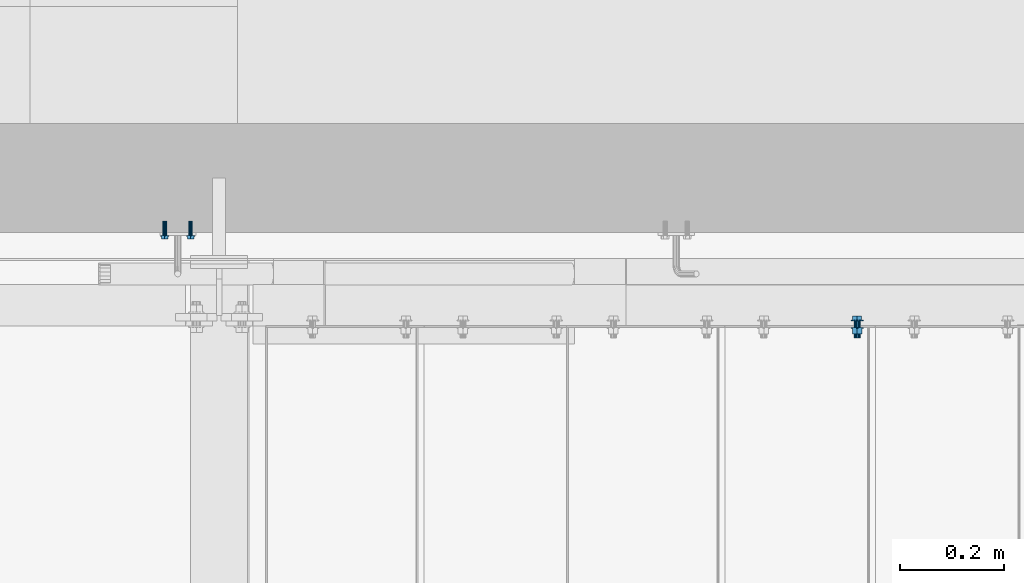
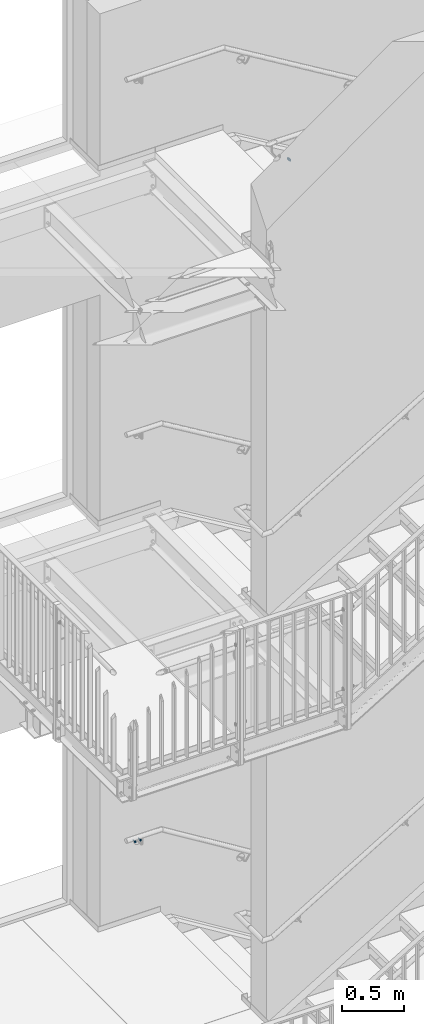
# One storey, part 249 of 410: 2 mechanical fasteners.
"""IFC2X3 building model written with IfcOpenShell, lengths in millimetres."""

from ifc_helpers import new_model, entity, si_unit, converted_unit, origin_with_axes, place, context, project, spatial, faceted_brep, element, save


model = new_model("IFC2X3")

# Units and contexts
model_context = context("Model", 3, precision=1e-09, world=origin_with_axes())
ifc_project = project(units=[si_unit("LENGTHUNIT", "METRE", prefix="MILLI"), si_unit("AREAUNIT", "SQUARE_METRE"), si_unit("VOLUMEUNIT", "CUBIC_METRE"), converted_unit("PLANEANGLEUNIT", "DEGREE", entity("IfcPlaneAngleMeasure", 0.01745329), si_unit("PLANEANGLEUNIT", "RADIAN"), dimensions=[0, 0, 0, 0, 0, 0, 0])], contexts=[model_context])

# Site, building, storey
site_placement = place(None, origin_with_axes())
site = spatial("IfcSite", under=ifc_project, at=site_placement, Name="mKR Teilneubau & Sanierung BA1 - Ostfildern", CompositionType="ELEMENT")
building_placement = place(site_placement, origin_with_axes())
building = spatial("IfcBuilding", under=site, at=building_placement, Name="Struktur 1", CompositionType="ELEMENT")
storey_placement = place(building_placement, origin_with_axes())
storey = spatial("IfcBuildingStorey", under=building, at=storey_placement, Name="Default Storey", CompositionType="ELEMENT", Elevation=0.0)

# Mechanical fasteners
mechanical_fastener_1_placement = place(None, origin_with_axes())
element("IfcMechanicalFastener", 1, at=mechanical_fastener_1_placement, inside=storey, ObjectType="Bolt", NominalDiameter=12.0, NominalLength=35.0, context=model_context, shape_type="Brep", body=[
    faceted_brep([(-568.0, 18451.499999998, 7095.0), (-568.0, 18448.999999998, 7095.0), (-568.230576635, 18448.999999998, 7092.658916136), (-568.230576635, 18451.499999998, 7092.658916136), (-568.91344561, 18448.999999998, 7090.407798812), (-568.91344561, 18451.499999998, 7090.407798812), (-570.022364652, 18448.999999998, 7088.333157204), (-570.022364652, 18451.499999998, 7088.333157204), (-571.514718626, 18448.999999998, 7086.514718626), (-571.514718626, 18451.499999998, 7086.514718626), (-573.333157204, 18448.999999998, 7085.022364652), (-573.333157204, 18451.499999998, 7085.022364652), (-575.407798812, 18448.999999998, 7083.91344561), (-575.407798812, 18451.499999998, 7083.91344561), (-577.658916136, 18448.999999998, 7083.230576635), (-577.658916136, 18451.499999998, 7083.230576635), (-580.0, 18448.999999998, 7083.0), (-580.0, 18451.499999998, 7083.0), (-582.341083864, 18448.999999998, 7083.230576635), (-582.341083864, 18451.499999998, 7083.230576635), (-584.592201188, 18448.999999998, 7083.91344561), (-584.592201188, 18451.499999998, 7083.91344561), (-586.666842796, 18448.999999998, 7085.022364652), (-586.666842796, 18451.499999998, 7085.022364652), (-588.485281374, 18448.999999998, 7086.514718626), (-588.485281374, 18451.499999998, 7086.514718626), (-589.977635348, 18448.999999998, 7088.333157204), (-589.977635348, 18451.499999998, 7088.333157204), (-591.08655439, 18448.999999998, 7090.407798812), (-591.08655439, 18451.499999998, 7090.407798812), (-591.769423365, 18448.999999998, 7092.658916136), (-591.769423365, 18451.499999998, 7092.658916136), (-592.0, 18448.999999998, 7095.0), (-592.0, 18451.499999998, 7095.0), (-591.769423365, 18448.999999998, 7097.341083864), (-591.769423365, 18451.499999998, 7097.341083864), (-591.08655439, 18448.999999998, 7099.592201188), (-591.08655439, 18451.499999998, 7099.592201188), (-589.977635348, 18448.999999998, 7101.666842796), (-589.977635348, 18451.499999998, 7101.666842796), (-588.485281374, 18448.999999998, 7103.485281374), (-588.485281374, 18451.499999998, 7103.485281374), (-586.666842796, 18448.999999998, 7104.977635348), (-586.666842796, 18451.499999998, 7104.977635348), (-584.592201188, 18448.999999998, 7106.08655439), (-584.592201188, 18451.499999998, 7106.08655439), (-582.341083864, 18448.999999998, 7106.769423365), (-582.341083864, 18451.499999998, 7106.769423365), (-580.0, 18448.999999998, 7107.0), (-580.0, 18451.499999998, 7107.0), (-577.658916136, 18448.999999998, 7106.769423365), (-577.658916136, 18451.499999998, 7106.769423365), (-575.407798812, 18448.999999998, 7106.08655439), (-575.407798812, 18451.499999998, 7106.08655439), (-573.333157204, 18448.999999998, 7104.977635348), (-573.333157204, 18451.499999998, 7104.977635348), (-571.514718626, 18448.999999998, 7103.485281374), (-571.514718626, 18451.499999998, 7103.485281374), (-570.022364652, 18448.999999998, 7101.666842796), (-570.022364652, 18451.499999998, 7101.666842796), (-568.91344561, 18448.999999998, 7099.592201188), (-568.91344561, 18451.499999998, 7099.592201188), (-568.230576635, 18448.999999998, 7097.341083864), (-568.230576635, 18451.499999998, 7097.341083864)], [[[0, 1, 2, 3]], [[3, 2, 4, 5]], [[5, 4, 6, 7]], [[7, 6, 8, 9]], [[9, 8, 10, 11]], [[11, 10, 12, 13]], [[13, 12, 14, 15]], [[15, 14, 16, 17]], [[17, 16, 18, 19]], [[19, 18, 20, 21]], [[21, 20, 22, 23]], [[23, 22, 24, 25]], [[25, 24, 26, 27]], [[27, 26, 28, 29]], [[29, 28, 30, 31]], [[31, 30, 32, 33]], [[33, 32, 34, 35]], [[35, 34, 36, 37]], [[37, 36, 38, 39]], [[39, 38, 40, 41]], [[41, 40, 42, 43]], [[43, 42, 44, 45]], [[45, 44, 46, 47]], [[47, 46, 48, 49]], [[49, 48, 50, 51]], [[51, 50, 52, 53]], [[53, 52, 54, 55]], [[55, 54, 56, 57]], [[57, 56, 58, 59]], [[59, 58, 60, 61]], [[61, 60, 62, 63]], [[63, 62, 1, 0]], [[0, 3, 5, 7, 9, 11, 13, 15, 17, 19, 21, 23, 25, 27, 29, 31, 33, 35, 37, 39, 41, 43, 45, 47, 49, 51, 53, 55, 57, 59, 61, 63]], [[1, 62, 60, 58, 56, 54, 52, 50, 48, 46, 44, 42, 40, 38, 36, 34, 32, 30, 28, 26, 24, 22, 20, 18, 16, 14, 12, 10, 8, 6, 4, 2]]]),
    faceted_brep([(-588.673244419, 18451.499999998, 7089.9925), (-588.673244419, 18458.999999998, 7089.9925), (-580.0, 18458.999999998, 7084.985), (-580.0, 18451.499999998, 7084.985), (-571.326755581, 18458.999999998, 7089.9925), (-571.326755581, 18451.499999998, 7089.9925), (-571.326755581, 18458.999999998, 7100.0075), (-571.326755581, 18451.499999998, 7100.0075), (-580.0, 18458.999999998, 7105.015), (-580.0, 18451.499999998, 7105.015), (-588.673244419, 18458.999999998, 7100.0075), (-588.673244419, 18451.499999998, 7100.0075)], [[[0, 1, 2, 3]], [[3, 2, 4, 5]], [[5, 4, 6, 7]], [[7, 6, 8, 9]], [[9, 8, 10, 11]], [[11, 10, 1, 0]], [[4, 2, 1, 10, 8, 6]], [[0, 3, 5, 7, 9, 11]]]),
    faceted_brep([(-574.0, 18448.999999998, 7095.0), (-574.0, 18436.999999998, 7095.0), (-574.456722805, 18436.999999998, 7092.703899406), (-574.456722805, 18448.999999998, 7092.703899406), (-575.757359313, 18436.999999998, 7090.757359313), (-575.757359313, 18448.999999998, 7090.757359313), (-577.703899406, 18436.999999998, 7089.456722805), (-577.703899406, 18448.999999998, 7089.456722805), (-580.0, 18436.999999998, 7089.0), (-580.0, 18448.999999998, 7089.0), (-582.296100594, 18436.999999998, 7089.456722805), (-582.296100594, 18448.999999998, 7089.456722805), (-584.242640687, 18436.999999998, 7090.757359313), (-584.242640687, 18448.999999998, 7090.757359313), (-585.543277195, 18436.999999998, 7092.703899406), (-585.543277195, 18448.999999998, 7092.703899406), (-586.0, 18436.999999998, 7095.0), (-586.0, 18448.999999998, 7095.0), (-585.543277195, 18436.999999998, 7097.296100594), (-585.543277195, 18448.999999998, 7097.296100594), (-584.242640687, 18436.999999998, 7099.242640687), (-584.242640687, 18448.999999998, 7099.242640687), (-582.296100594, 18436.999999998, 7100.543277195), (-582.296100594, 18448.999999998, 7100.543277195), (-580.0, 18436.999999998, 7101.0), (-580.0, 18448.999999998, 7101.0), (-577.703899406, 18436.999999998, 7100.543277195), (-577.703899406, 18448.999999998, 7100.543277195), (-575.757359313, 18436.999999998, 7099.242640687), (-575.757359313, 18448.999999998, 7099.242640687), (-574.456722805, 18436.999999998, 7097.296100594), (-574.456722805, 18448.999999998, 7097.296100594)], [[[0, 1, 2, 3]], [[3, 2, 4, 5]], [[5, 4, 6, 7]], [[7, 6, 8, 9]], [[9, 8, 10, 11]], [[11, 10, 12, 13]], [[13, 12, 14, 15]], [[15, 14, 16, 17]], [[17, 16, 18, 19]], [[19, 18, 20, 21]], [[21, 20, 22, 23]], [[23, 22, 24, 25]], [[25, 24, 26, 27]], [[27, 26, 28, 29]], [[29, 28, 30, 31]], [[31, 30, 1, 0]], [[0, 3, 5, 7, 9, 11, 13, 15, 17, 19, 21, 23, 25, 27, 29, 31]], [[1, 30, 28, 26, 24, 22, 20, 18, 16, 14, 12, 10, 8, 6, 4, 2]]]),
    faceted_brep([(-568.0, 18436.999999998, 7095.0), (-568.0, 18434.499999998, 7095.0), (-568.230576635, 18434.499999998, 7092.658916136), (-568.230576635, 18436.999999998, 7092.658916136), (-568.91344561, 18434.499999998, 7090.407798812), (-568.91344561, 18436.999999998, 7090.407798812), (-570.022364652, 18434.499999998, 7088.333157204), (-570.022364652, 18436.999999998, 7088.333157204), (-571.514718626, 18434.499999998, 7086.514718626), (-571.514718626, 18436.999999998, 7086.514718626), (-573.333157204, 18434.499999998, 7085.022364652), (-573.333157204, 18436.999999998, 7085.022364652), (-575.407798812, 18434.499999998, 7083.91344561), (-575.407798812, 18436.999999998, 7083.91344561), (-577.658916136, 18434.499999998, 7083.230576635), (-577.658916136, 18436.999999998, 7083.230576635), (-580.0, 18434.499999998, 7083.0), (-580.0, 18436.999999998, 7083.0), (-582.341083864, 18434.499999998, 7083.230576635), (-582.341083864, 18436.999999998, 7083.230576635), (-584.592201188, 18434.499999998, 7083.91344561), (-584.592201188, 18436.999999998, 7083.91344561), (-586.666842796, 18434.499999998, 7085.022364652), (-586.666842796, 18436.999999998, 7085.022364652), (-588.485281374, 18434.499999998, 7086.514718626), (-588.485281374, 18436.999999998, 7086.514718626), (-589.977635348, 18434.499999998, 7088.333157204), (-589.977635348, 18436.999999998, 7088.333157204), (-591.08655439, 18434.499999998, 7090.407798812), (-591.08655439, 18436.999999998, 7090.407798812), (-591.769423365, 18434.499999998, 7092.658916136), (-591.769423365, 18436.999999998, 7092.658916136), (-592.0, 18434.499999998, 7095.0), (-592.0, 18436.999999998, 7095.0), (-591.769423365, 18434.499999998, 7097.341083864), (-591.769423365, 18436.999999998, 7097.341083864), (-591.08655439, 18434.499999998, 7099.592201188), (-591.08655439, 18436.999999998, 7099.592201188), (-589.977635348, 18434.499999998, 7101.666842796), (-589.977635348, 18436.999999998, 7101.666842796), (-588.485281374, 18434.499999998, 7103.485281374), (-588.485281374, 18436.999999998, 7103.485281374), (-586.666842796, 18434.499999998, 7104.977635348), (-586.666842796, 18436.999999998, 7104.977635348), (-584.592201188, 18434.499999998, 7106.08655439), (-584.592201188, 18436.999999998, 7106.08655439), (-582.341083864, 18434.499999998, 7106.769423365), (-582.341083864, 18436.999999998, 7106.769423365), (-580.0, 18434.499999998, 7107.0), (-580.0, 18436.999999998, 7107.0), (-577.658916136, 18434.499999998, 7106.769423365), (-577.658916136, 18436.999999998, 7106.769423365), (-575.407798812, 18434.499999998, 7106.08655439), (-575.407798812, 18436.999999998, 7106.08655439), (-573.333157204, 18434.499999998, 7104.977635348), (-573.333157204, 18436.999999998, 7104.977635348), (-571.514718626, 18434.499999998, 7103.485281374), (-571.514718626, 18436.999999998, 7103.485281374), (-570.022364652, 18434.499999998, 7101.666842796), (-570.022364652, 18436.999999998, 7101.666842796), (-568.91344561, 18434.499999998, 7099.592201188), (-568.91344561, 18436.999999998, 7099.592201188), (-568.230576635, 18434.499999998, 7097.341083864), (-568.230576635, 18436.999999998, 7097.341083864)], [[[0, 1, 2, 3]], [[3, 2, 4, 5]], [[5, 4, 6, 7]], [[7, 6, 8, 9]], [[9, 8, 10, 11]], [[11, 10, 12, 13]], [[13, 12, 14, 15]], [[15, 14, 16, 17]], [[17, 16, 18, 19]], [[19, 18, 20, 21]], [[21, 20, 22, 23]], [[23, 22, 24, 25]], [[25, 24, 26, 27]], [[27, 26, 28, 29]], [[29, 28, 30, 31]], [[31, 30, 32, 33]], [[33, 32, 34, 35]], [[35, 34, 36, 37]], [[37, 36, 38, 39]], [[39, 38, 40, 41]], [[41, 40, 42, 43]], [[43, 42, 44, 45]], [[45, 44, 46, 47]], [[47, 46, 48, 49]], [[49, 48, 50, 51]], [[51, 50, 52, 53]], [[53, 52, 54, 55]], [[55, 54, 56, 57]], [[57, 56, 58, 59]], [[59, 58, 60, 61]], [[61, 60, 62, 63]], [[63, 62, 1, 0]], [[0, 3, 5, 7, 9, 11, 13, 15, 17, 19, 21, 23, 25, 27, 29, 31, 33, 35, 37, 39, 41, 43, 45, 47, 49, 51, 53, 55, 57, 59, 61, 63]], [[1, 62, 60, 58, 56, 54, 52, 50, 48, 46, 44, 42, 40, 38, 36, 34, 32, 30, 28, 26, 24, 22, 20, 18, 16, 14, 12, 10, 8, 6, 4, 2]]]),
    faceted_brep([(-589.13656801, 18424.499999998, 7089.725), (-589.13656801, 18434.499999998, 7089.725), (-580.0, 18434.499999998, 7084.45), (-580.0, 18424.499999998, 7084.45), (-570.86343199, 18434.499999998, 7089.725), (-570.86343199, 18424.499999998, 7089.725), (-570.86343199, 18434.499999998, 7100.275), (-570.86343199, 18424.499999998, 7100.275), (-580.0, 18434.499999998, 7105.55), (-580.0, 18424.499999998, 7105.55), (-589.13656801, 18434.499999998, 7100.275), (-589.13656801, 18424.499999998, 7100.275)], [[[0, 1, 2, 3]], [[3, 2, 4, 5]], [[5, 4, 6, 7]], [[7, 6, 8, 9]], [[9, 8, 10, 11]], [[11, 10, 1, 0]], [[4, 2, 1, 10, 8, 6]], [[0, 3, 5, 7, 9, 11]]]),
    faceted_brep([(-574.0, 18424.499999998, 7095.0), (-574.0, 18416.499999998, 7095.0), (-574.456722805, 18416.499999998, 7092.703899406), (-574.456722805, 18424.499999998, 7092.703899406), (-575.757359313, 18416.499999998, 7090.757359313), (-575.757359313, 18424.499999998, 7090.757359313), (-577.703899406, 18416.499999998, 7089.456722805), (-577.703899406, 18424.499999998, 7089.456722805), (-580.0, 18416.499999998, 7089.0), (-580.0, 18424.499999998, 7089.0), (-582.296100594, 18416.499999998, 7089.456722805), (-582.296100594, 18424.499999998, 7089.456722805), (-584.242640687, 18416.499999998, 7090.757359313), (-584.242640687, 18424.499999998, 7090.757359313), (-585.543277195, 18416.499999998, 7092.703899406), (-585.543277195, 18424.499999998, 7092.703899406), (-586.0, 18416.499999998, 7095.0), (-586.0, 18424.499999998, 7095.0), (-585.543277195, 18416.499999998, 7097.296100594), (-585.543277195, 18424.499999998, 7097.296100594), (-584.242640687, 18416.499999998, 7099.242640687), (-584.242640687, 18424.499999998, 7099.242640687), (-582.296100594, 18416.499999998, 7100.543277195), (-582.296100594, 18424.499999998, 7100.543277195), (-580.0, 18416.499999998, 7101.0), (-580.0, 18424.499999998, 7101.0), (-577.703899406, 18416.499999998, 7100.543277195), (-577.703899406, 18424.499999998, 7100.543277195), (-575.757359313, 18416.499999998, 7099.242640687), (-575.757359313, 18424.499999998, 7099.242640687), (-574.456722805, 18416.499999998, 7097.296100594), (-574.456722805, 18424.499999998, 7097.296100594)], [[[0, 1, 2, 3]], [[3, 2, 4, 5]], [[5, 4, 6, 7]], [[7, 6, 8, 9]], [[9, 8, 10, 11]], [[11, 10, 12, 13]], [[13, 12, 14, 15]], [[15, 14, 16, 17]], [[17, 16, 18, 19]], [[19, 18, 20, 21]], [[21, 20, 22, 23]], [[23, 22, 24, 25]], [[25, 24, 26, 27]], [[27, 26, 28, 29]], [[29, 28, 30, 31]], [[31, 30, 1, 0]], [[0, 3, 5, 7, 9, 11, 13, 15, 17, 19, 21, 23, 25, 27, 29, 31]], [[1, 30, 28, 26, 24, 22, 20, 18, 16, 14, 12, 10, 8, 6, 4, 2]]]),
])
mechanical_fastener_2_placement = place(None, origin_with_axes())
element("IfcMechanicalFastener", 2, at=mechanical_fastener_2_placement, inside=storey, ObjectType="-", NominalDiameter=8.0, NominalLength=30.0, context=model_context, shape_type="Brep", body=[
    faceted_brep([(-1873.000783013, 18612.400061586, 732.599463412), (-1873.000783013, 18614.000061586, 732.599463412), (-1872.847065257, 18614.000061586, 731.038740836), (-1872.847065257, 18612.400061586, 731.038740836), (-1872.391819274, 18614.000061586, 729.537995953), (-1872.391819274, 18612.400061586, 729.537995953), (-1871.652539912, 18614.000061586, 728.154901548), (-1871.652539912, 18612.400061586, 728.154901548), (-1870.657637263, 18614.000061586, 726.942609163), (-1870.657637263, 18612.400061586, 726.942609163), (-1869.445344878, 18614.000061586, 725.947706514), (-1869.445344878, 18612.400061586, 725.947706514), (-1868.062250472, 18614.000061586, 725.208427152), (-1868.062250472, 18612.400061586, 725.208427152), (-1866.56150559, 18614.000061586, 724.753181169), (-1866.56150559, 18612.400061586, 724.753181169), (-1865.000783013, 18614.000061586, 724.599463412), (-1865.000783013, 18612.400061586, 724.599463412), (-1863.440060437, 18614.000061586, 724.753181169), (-1863.440060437, 18612.400061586, 724.753181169), (-1861.939315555, 18614.000061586, 725.208427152), (-1861.939315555, 18612.400061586, 725.208427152), (-1860.556221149, 18614.000061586, 725.947706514), (-1860.556221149, 18612.400061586, 725.947706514), (-1859.343928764, 18614.000061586, 726.942609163), (-1859.343928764, 18612.400061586, 726.942609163), (-1858.349026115, 18614.000061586, 728.154901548), (-1858.349026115, 18612.400061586, 728.154901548), (-1857.609746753, 18614.000061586, 729.537995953), (-1857.609746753, 18612.400061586, 729.537995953), (-1857.15450077, 18614.000061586, 731.038740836), (-1857.15450077, 18612.400061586, 731.038740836), (-1857.000783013, 18614.000061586, 732.599463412), (-1857.000783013, 18612.400061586, 732.599463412), (-1857.15450077, 18614.000061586, 734.160185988), (-1857.15450077, 18612.400061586, 734.160185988), (-1857.609746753, 18614.000061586, 735.660930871), (-1857.609746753, 18612.400061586, 735.660930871), (-1858.349026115, 18614.000061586, 737.044025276), (-1858.349026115, 18612.400061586, 737.044025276), (-1859.343928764, 18614.000061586, 738.256317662), (-1859.343928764, 18612.400061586, 738.256317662), (-1860.556221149, 18614.000061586, 739.251220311), (-1860.556221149, 18612.400061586, 739.251220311), (-1861.939315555, 18614.000061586, 739.990499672), (-1861.939315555, 18612.400061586, 739.990499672), (-1863.440060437, 18614.000061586, 740.445745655), (-1863.440060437, 18612.400061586, 740.445745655), (-1865.000783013, 18614.000061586, 740.599463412), (-1865.000783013, 18612.400061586, 740.599463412), (-1866.56150559, 18614.000061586, 740.445745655), (-1866.56150559, 18612.400061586, 740.445745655), (-1868.062250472, 18614.000061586, 739.990499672), (-1868.062250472, 18612.400061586, 739.990499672), (-1869.445344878, 18614.000061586, 739.251220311), (-1869.445344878, 18612.400061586, 739.251220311), (-1870.657637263, 18614.000061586, 738.256317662), (-1870.657637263, 18612.400061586, 738.256317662), (-1871.652539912, 18614.000061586, 737.044025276), (-1871.652539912, 18612.400061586, 737.044025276), (-1872.391819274, 18614.000061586, 735.660930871), (-1872.391819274, 18612.400061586, 735.660930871), (-1872.847065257, 18614.000061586, 734.160185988), (-1872.847065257, 18612.400061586, 734.160185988)], [[[0, 1, 2, 3]], [[3, 2, 4, 5]], [[5, 4, 6, 7]], [[7, 6, 8, 9]], [[9, 8, 10, 11]], [[11, 10, 12, 13]], [[13, 12, 14, 15]], [[15, 14, 16, 17]], [[17, 16, 18, 19]], [[19, 18, 20, 21]], [[21, 20, 22, 23]], [[23, 22, 24, 25]], [[25, 24, 26, 27]], [[27, 26, 28, 29]], [[29, 28, 30, 31]], [[31, 30, 32, 33]], [[33, 32, 34, 35]], [[35, 34, 36, 37]], [[37, 36, 38, 39]], [[39, 38, 40, 41]], [[41, 40, 42, 43]], [[43, 42, 44, 45]], [[45, 44, 46, 47]], [[47, 46, 48, 49]], [[49, 48, 50, 51]], [[51, 50, 52, 53]], [[53, 52, 54, 55]], [[55, 54, 56, 57]], [[57, 56, 58, 59]], [[59, 58, 60, 61]], [[61, 60, 62, 63]], [[63, 62, 1, 0]], [[0, 3, 5, 7, 9, 11, 13, 15, 17, 19, 21, 23, 25, 27, 29, 31, 33, 35, 37, 39, 41, 43, 45, 47, 49, 51, 53, 55, 57, 59, 61, 63]], [[1, 62, 60, 58, 56, 54, 52, 50, 48, 46, 44, 42, 40, 38, 36, 34, 32, 30, 28, 26, 24, 22, 20, 18, 16, 14, 12, 10, 8, 6, 4, 2]]]),
    faceted_brep([(-1923.000783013, 18612.400061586, 732.599463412), (-1923.000783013, 18614.000061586, 732.599463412), (-1922.847065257, 18614.000061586, 731.038740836), (-1922.847065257, 18612.400061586, 731.038740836), (-1922.391819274, 18614.000061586, 729.537995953), (-1922.391819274, 18612.400061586, 729.537995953), (-1921.652539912, 18614.000061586, 728.154901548), (-1921.652539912, 18612.400061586, 728.154901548), (-1920.657637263, 18614.000061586, 726.942609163), (-1920.657637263, 18612.400061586, 726.942609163), (-1919.445344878, 18614.000061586, 725.947706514), (-1919.445344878, 18612.400061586, 725.947706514), (-1918.062250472, 18614.000061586, 725.208427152), (-1918.062250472, 18612.400061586, 725.208427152), (-1916.56150559, 18614.000061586, 724.753181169), (-1916.56150559, 18612.400061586, 724.753181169), (-1915.000783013, 18614.000061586, 724.599463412), (-1915.000783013, 18612.400061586, 724.599463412), (-1913.440060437, 18614.000061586, 724.753181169), (-1913.440060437, 18612.400061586, 724.753181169), (-1911.939315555, 18614.000061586, 725.208427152), (-1911.939315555, 18612.400061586, 725.208427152), (-1910.556221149, 18614.000061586, 725.947706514), (-1910.556221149, 18612.400061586, 725.947706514), (-1909.343928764, 18614.000061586, 726.942609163), (-1909.343928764, 18612.400061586, 726.942609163), (-1908.349026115, 18614.000061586, 728.154901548), (-1908.349026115, 18612.400061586, 728.154901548), (-1907.609746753, 18614.000061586, 729.537995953), (-1907.609746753, 18612.400061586, 729.537995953), (-1907.15450077, 18614.000061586, 731.038740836), (-1907.15450077, 18612.400061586, 731.038740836), (-1907.000783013, 18614.000061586, 732.599463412), (-1907.000783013, 18612.400061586, 732.599463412), (-1907.15450077, 18614.000061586, 734.160185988), (-1907.15450077, 18612.400061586, 734.160185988), (-1907.609746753, 18614.000061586, 735.660930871), (-1907.609746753, 18612.400061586, 735.660930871), (-1908.349026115, 18614.000061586, 737.044025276), (-1908.349026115, 18612.400061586, 737.044025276), (-1909.343928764, 18614.000061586, 738.256317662), (-1909.343928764, 18612.400061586, 738.256317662), (-1910.556221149, 18614.000061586, 739.251220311), (-1910.556221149, 18612.400061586, 739.251220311), (-1911.939315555, 18614.000061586, 739.990499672), (-1911.939315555, 18612.400061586, 739.990499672), (-1913.440060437, 18614.000061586, 740.445745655), (-1913.440060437, 18612.400061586, 740.445745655), (-1915.000783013, 18614.000061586, 740.599463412), (-1915.000783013, 18612.400061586, 740.599463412), (-1916.56150559, 18614.000061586, 740.445745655), (-1916.56150559, 18612.400061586, 740.445745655), (-1918.062250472, 18614.000061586, 739.990499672), (-1918.062250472, 18612.400061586, 739.990499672), (-1919.445344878, 18614.000061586, 739.251220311), (-1919.445344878, 18612.400061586, 739.251220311), (-1920.657637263, 18614.000061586, 738.256317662), (-1920.657637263, 18612.400061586, 738.256317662), (-1921.652539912, 18614.000061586, 737.044025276), (-1921.652539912, 18612.400061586, 737.044025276), (-1922.391819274, 18614.000061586, 735.660930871), (-1922.391819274, 18612.400061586, 735.660930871), (-1922.847065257, 18614.000061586, 734.160185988), (-1922.847065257, 18612.400061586, 734.160185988)], [[[0, 1, 2, 3]], [[3, 2, 4, 5]], [[5, 4, 6, 7]], [[7, 6, 8, 9]], [[9, 8, 10, 11]], [[11, 10, 12, 13]], [[13, 12, 14, 15]], [[15, 14, 16, 17]], [[17, 16, 18, 19]], [[19, 18, 20, 21]], [[21, 20, 22, 23]], [[23, 22, 24, 25]], [[25, 24, 26, 27]], [[27, 26, 28, 29]], [[29, 28, 30, 31]], [[31, 30, 32, 33]], [[33, 32, 34, 35]], [[35, 34, 36, 37]], [[37, 36, 38, 39]], [[39, 38, 40, 41]], [[41, 40, 42, 43]], [[43, 42, 44, 45]], [[45, 44, 46, 47]], [[47, 46, 48, 49]], [[49, 48, 50, 51]], [[51, 50, 52, 53]], [[53, 52, 54, 55]], [[55, 54, 56, 57]], [[57, 56, 58, 59]], [[59, 58, 60, 61]], [[61, 60, 62, 63]], [[63, 62, 1, 0]], [[0, 3, 5, 7, 9, 11, 13, 15, 17, 19, 21, 23, 25, 27, 29, 31, 33, 35, 37, 39, 41, 43, 45, 47, 49, 51, 53, 55, 57, 59, 61, 63]], [[1, 62, 60, 58, 56, 54, 52, 50, 48, 46, 44, 42, 40, 38, 36, 34, 32, 30, 28, 26, 24, 22, 20, 18, 16, 14, 12, 10, 8, 6, 4, 2]]]),
    faceted_brep([(-1858.77406036, 18612.400061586, 729.004463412), (-1858.77406036, 18607.100061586, 729.004463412), (-1865.000783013, 18607.100061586, 725.409463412), (-1865.000783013, 18612.400061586, 725.409463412), (-1871.227505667, 18607.100061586, 729.004463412), (-1871.227505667, 18612.400061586, 729.004463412), (-1871.227505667, 18607.100061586, 736.194463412), (-1871.227505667, 18612.400061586, 736.194463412), (-1865.000783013, 18607.100061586, 739.789463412), (-1865.000783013, 18612.400061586, 739.789463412), (-1858.77406036, 18607.100061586, 736.194463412), (-1858.77406036, 18612.400061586, 736.194463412)], [[[0, 1, 2, 3]], [[3, 2, 4, 5]], [[5, 4, 6, 7]], [[7, 6, 8, 9]], [[9, 8, 10, 11]], [[11, 10, 1, 0]], [[4, 2, 1, 10, 8, 6]], [[0, 3, 5, 7, 9, 11]]]),
    faceted_brep([(-1908.77406036, 18612.400061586, 729.004463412), (-1908.77406036, 18607.100061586, 729.004463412), (-1915.000783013, 18607.100061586, 725.409463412), (-1915.000783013, 18612.400061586, 725.409463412), (-1921.227505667, 18607.100061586, 729.004463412), (-1921.227505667, 18612.400061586, 729.004463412), (-1921.227505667, 18607.100061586, 736.194463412), (-1921.227505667, 18612.400061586, 736.194463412), (-1915.000783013, 18607.100061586, 739.789463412), (-1915.000783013, 18612.400061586, 739.789463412), (-1908.77406036, 18607.100061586, 736.194463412), (-1908.77406036, 18612.400061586, 736.194463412)], [[[0, 1, 2, 3]], [[3, 2, 4, 5]], [[5, 4, 6, 7]], [[7, 6, 8, 9]], [[9, 8, 10, 11]], [[11, 10, 1, 0]], [[4, 2, 1, 10, 8, 6]], [[0, 3, 5, 7, 9, 11]]]),
    faceted_brep([(-1869.000783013, 18614.000061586, 732.599463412), (-1869.000783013, 18624.000061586, 732.599463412), (-1868.696301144, 18624.000061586, 731.068729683), (-1868.696301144, 18614.000061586, 731.068729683), (-1867.829210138, 18624.000061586, 729.771036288), (-1867.829210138, 18614.000061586, 729.771036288), (-1866.531516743, 18624.000061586, 728.903945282), (-1866.531516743, 18614.000061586, 728.903945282), (-1865.000783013, 18624.000061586, 728.599463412), (-1865.000783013, 18614.000061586, 728.599463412), (-1863.470049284, 18624.000061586, 728.903945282), (-1863.470049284, 18614.000061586, 728.903945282), (-1862.172355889, 18624.000061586, 729.771036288), (-1862.172355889, 18614.000061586, 729.771036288), (-1861.305264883, 18624.000061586, 731.068729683), (-1861.305264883, 18614.000061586, 731.068729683), (-1861.000783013, 18624.000061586, 732.599463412), (-1861.000783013, 18614.000061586, 732.599463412), (-1861.305264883, 18624.000061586, 734.130197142), (-1861.305264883, 18614.000061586, 734.130197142), (-1862.172355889, 18624.000061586, 735.427890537), (-1862.172355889, 18614.000061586, 735.427890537), (-1863.470049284, 18624.000061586, 736.294981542), (-1863.470049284, 18614.000061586, 736.294981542), (-1865.000783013, 18624.000061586, 736.599463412), (-1865.000783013, 18614.000061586, 736.599463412), (-1866.531516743, 18624.000061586, 736.294981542), (-1866.531516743, 18614.000061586, 736.294981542), (-1867.829210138, 18624.000061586, 735.427890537), (-1867.829210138, 18614.000061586, 735.427890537), (-1868.696301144, 18624.000061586, 734.130197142), (-1868.696301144, 18614.000061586, 734.130197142)], [[[0, 1, 2, 3]], [[3, 2, 4, 5]], [[5, 4, 6, 7]], [[7, 6, 8, 9]], [[9, 8, 10, 11]], [[11, 10, 12, 13]], [[13, 12, 14, 15]], [[15, 14, 16, 17]], [[17, 16, 18, 19]], [[19, 18, 20, 21]], [[21, 20, 22, 23]], [[23, 22, 24, 25]], [[25, 24, 26, 27]], [[27, 26, 28, 29]], [[29, 28, 30, 31]], [[31, 30, 1, 0]], [[0, 3, 5, 7, 9, 11, 13, 15, 17, 19, 21, 23, 25, 27, 29, 31]], [[1, 30, 28, 26, 24, 22, 20, 18, 16, 14, 12, 10, 8, 6, 4, 2]]]),
    faceted_brep([(-1919.000783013, 18614.000061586, 732.599463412), (-1919.000783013, 18624.000061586, 732.599463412), (-1918.696301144, 18624.000061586, 731.068729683), (-1918.696301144, 18614.000061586, 731.068729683), (-1917.829210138, 18624.000061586, 729.771036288), (-1917.829210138, 18614.000061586, 729.771036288), (-1916.531516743, 18624.000061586, 728.903945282), (-1916.531516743, 18614.000061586, 728.903945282), (-1915.000783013, 18624.000061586, 728.599463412), (-1915.000783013, 18614.000061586, 728.599463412), (-1913.470049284, 18624.000061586, 728.903945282), (-1913.470049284, 18614.000061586, 728.903945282), (-1912.172355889, 18624.000061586, 729.771036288), (-1912.172355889, 18614.000061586, 729.771036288), (-1911.305264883, 18624.000061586, 731.068729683), (-1911.305264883, 18614.000061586, 731.068729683), (-1911.000783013, 18624.000061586, 732.599463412), (-1911.000783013, 18614.000061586, 732.599463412), (-1911.305264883, 18624.000061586, 734.130197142), (-1911.305264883, 18614.000061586, 734.130197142), (-1912.172355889, 18624.000061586, 735.427890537), (-1912.172355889, 18614.000061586, 735.427890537), (-1913.470049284, 18624.000061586, 736.294981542), (-1913.470049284, 18614.000061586, 736.294981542), (-1915.000783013, 18624.000061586, 736.599463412), (-1915.000783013, 18614.000061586, 736.599463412), (-1916.531516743, 18624.000061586, 736.294981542), (-1916.531516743, 18614.000061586, 736.294981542), (-1917.829210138, 18624.000061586, 735.427890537), (-1917.829210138, 18614.000061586, 735.427890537), (-1918.696301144, 18624.000061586, 734.130197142), (-1918.696301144, 18614.000061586, 734.130197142)], [[[0, 1, 2, 3]], [[3, 2, 4, 5]], [[5, 4, 6, 7]], [[7, 6, 8, 9]], [[9, 8, 10, 11]], [[11, 10, 12, 13]], [[13, 12, 14, 15]], [[15, 14, 16, 17]], [[17, 16, 18, 19]], [[19, 18, 20, 21]], [[21, 20, 22, 23]], [[23, 22, 24, 25]], [[25, 24, 26, 27]], [[27, 26, 28, 29]], [[29, 28, 30, 31]], [[31, 30, 1, 0]], [[0, 3, 5, 7, 9, 11, 13, 15, 17, 19, 21, 23, 25, 27, 29, 31]], [[1, 30, 28, 26, 24, 22, 20, 18, 16, 14, 12, 10, 8, 6, 4, 2]]]),
    faceted_brep([(-1869.000783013, 18624.000061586, 732.599463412), (-1869.000783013, 18642.400061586, 732.599463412), (-1868.696301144, 18642.400061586, 731.068729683), (-1868.696301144, 18624.000061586, 731.068729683), (-1867.829210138, 18642.400061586, 729.771036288), (-1867.829210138, 18624.000061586, 729.771036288), (-1866.531516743, 18642.400061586, 728.903945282), (-1866.531516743, 18624.000061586, 728.903945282), (-1865.000783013, 18642.400061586, 728.599463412), (-1865.000783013, 18624.000061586, 728.599463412), (-1863.470049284, 18642.400061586, 728.903945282), (-1863.470049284, 18624.000061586, 728.903945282), (-1862.172355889, 18642.400061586, 729.771036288), (-1862.172355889, 18624.000061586, 729.771036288), (-1861.305264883, 18642.400061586, 731.068729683), (-1861.305264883, 18624.000061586, 731.068729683), (-1861.000783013, 18642.400061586, 732.599463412), (-1861.000783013, 18624.000061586, 732.599463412), (-1861.305264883, 18642.400061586, 734.130197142), (-1861.305264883, 18624.000061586, 734.130197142), (-1862.172355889, 18642.400061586, 735.427890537), (-1862.172355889, 18624.000061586, 735.427890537), (-1863.470049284, 18642.400061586, 736.294981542), (-1863.470049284, 18624.000061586, 736.294981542), (-1865.000783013, 18642.400061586, 736.599463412), (-1865.000783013, 18624.000061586, 736.599463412), (-1866.531516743, 18642.400061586, 736.294981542), (-1866.531516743, 18624.000061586, 736.294981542), (-1867.829210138, 18642.400061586, 735.427890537), (-1867.829210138, 18624.000061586, 735.427890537), (-1868.696301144, 18642.400061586, 734.130197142), (-1868.696301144, 18624.000061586, 734.130197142)], [[[0, 1, 2, 3]], [[3, 2, 4, 5]], [[5, 4, 6, 7]], [[7, 6, 8, 9]], [[9, 8, 10, 11]], [[11, 10, 12, 13]], [[13, 12, 14, 15]], [[15, 14, 16, 17]], [[17, 16, 18, 19]], [[19, 18, 20, 21]], [[21, 20, 22, 23]], [[23, 22, 24, 25]], [[25, 24, 26, 27]], [[27, 26, 28, 29]], [[29, 28, 30, 31]], [[31, 30, 1, 0]], [[0, 3, 5, 7, 9, 11, 13, 15, 17, 19, 21, 23, 25, 27, 29, 31]], [[1, 30, 28, 26, 24, 22, 20, 18, 16, 14, 12, 10, 8, 6, 4, 2]]]),
    faceted_brep([(-1919.000783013, 18624.000061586, 732.599463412), (-1919.000783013, 18642.400061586, 732.599463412), (-1918.696301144, 18642.400061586, 731.068729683), (-1918.696301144, 18624.000061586, 731.068729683), (-1917.829210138, 18642.400061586, 729.771036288), (-1917.829210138, 18624.000061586, 729.771036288), (-1916.531516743, 18642.400061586, 728.903945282), (-1916.531516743, 18624.000061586, 728.903945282), (-1915.000783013, 18642.400061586, 728.599463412), (-1915.000783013, 18624.000061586, 728.599463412), (-1913.470049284, 18642.400061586, 728.903945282), (-1913.470049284, 18624.000061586, 728.903945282), (-1912.172355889, 18642.400061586, 729.771036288), (-1912.172355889, 18624.000061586, 729.771036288), (-1911.305264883, 18642.400061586, 731.068729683), (-1911.305264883, 18624.000061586, 731.068729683), (-1911.000783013, 18642.400061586, 732.599463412), (-1911.000783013, 18624.000061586, 732.599463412), (-1911.305264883, 18642.400061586, 734.130197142), (-1911.305264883, 18624.000061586, 734.130197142), (-1912.172355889, 18642.400061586, 735.427890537), (-1912.172355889, 18624.000061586, 735.427890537), (-1913.470049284, 18642.400061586, 736.294981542), (-1913.470049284, 18624.000061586, 736.294981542), (-1915.000783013, 18642.400061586, 736.599463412), (-1915.000783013, 18624.000061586, 736.599463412), (-1916.531516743, 18642.400061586, 736.294981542), (-1916.531516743, 18624.000061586, 736.294981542), (-1917.829210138, 18642.400061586, 735.427890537), (-1917.829210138, 18624.000061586, 735.427890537), (-1918.696301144, 18642.400061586, 734.130197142), (-1918.696301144, 18624.000061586, 734.130197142)], [[[0, 1, 2, 3]], [[3, 2, 4, 5]], [[5, 4, 6, 7]], [[7, 6, 8, 9]], [[9, 8, 10, 11]], [[11, 10, 12, 13]], [[13, 12, 14, 15]], [[15, 14, 16, 17]], [[17, 16, 18, 19]], [[19, 18, 20, 21]], [[21, 20, 22, 23]], [[23, 22, 24, 25]], [[25, 24, 26, 27]], [[27, 26, 28, 29]], [[29, 28, 30, 31]], [[31, 30, 1, 0]], [[0, 3, 5, 7, 9, 11, 13, 15, 17, 19, 21, 23, 25, 27, 29, 31]], [[1, 30, 28, 26, 24, 22, 20, 18, 16, 14, 12, 10, 8, 6, 4, 2]]]),
])

save(model, "model.ifc")
